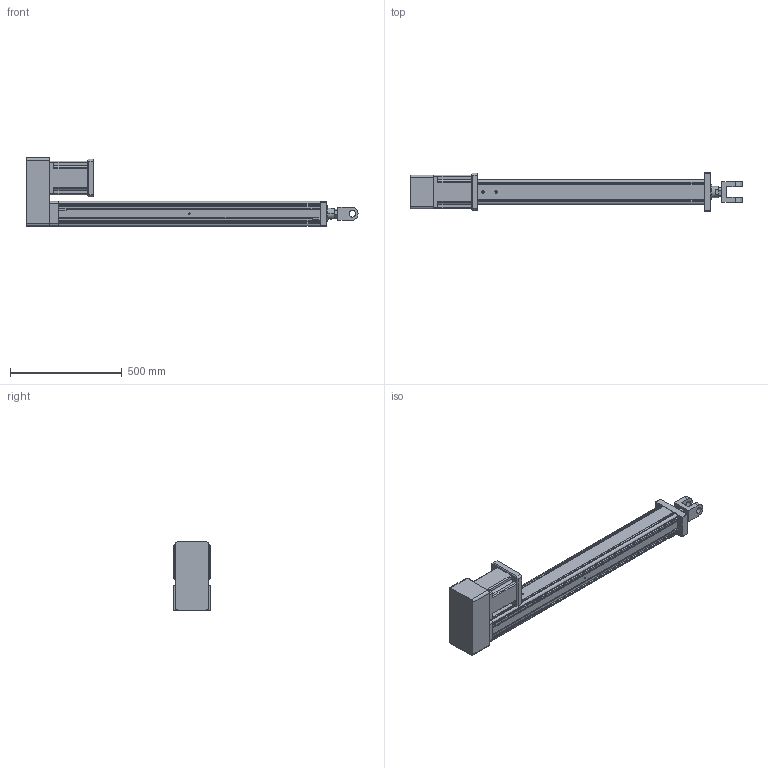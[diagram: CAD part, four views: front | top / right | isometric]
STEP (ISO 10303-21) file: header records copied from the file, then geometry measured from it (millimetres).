
FILE_DESCRIPTION (( 'STEP AP203' ), '1' );
FILE_NAME ('YRJ110-L1000-H3K4.STEP', '2020-01-04T06:35:56', ( 'User' ), ( 'China' ), 'SwSTEP 2.0', 'SolidWorks 2016', '' );
FILE_SCHEMA (( 'CONFIG_CONTROL_DESIGN' ));
Length unit declared in the file: millimetre
Products named in the file (7): 萇儂碟-110; 095-100俴最倰第; 142熬厒儂; H3-110-1; H3-110-2; K4-110; YRJ110-L1000-H3K4
Assembly tree (6 placements, depth 2):
  YRJ110-L1000-H3K4
    095-100俴最倰第
    萇儂碟-110
    142熬厒儂
    H3-110-1
    H3-110-2
    K4-110
Bounding box: 1486 x 170 x 305.5 mm (x, y, z)
Volume: 14976417.3 mm3; surface area: 1542447.4 mm2
Topology: 6 solids, 6 shells, 326 faces, 904 edges, 585 vertices
Faces by surface type: plane 179, cylinder 120, cone 27
Entity records: 11416 total; most frequent: CARTESIAN_POINT 2148, DIRECTION 1791, ORIENTED_EDGE 1776, EDGE_CURVE 888, LINE 611, VECTOR 611, AXIS2_PLACEMENT_3D 590, VERTEX_POINT 585
